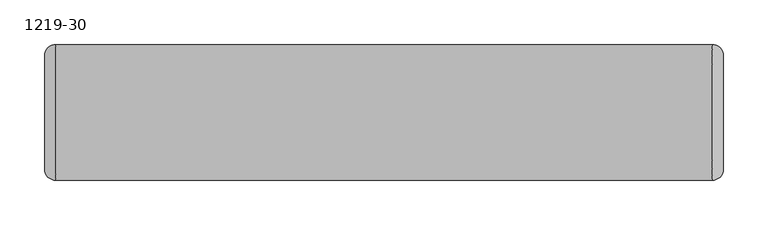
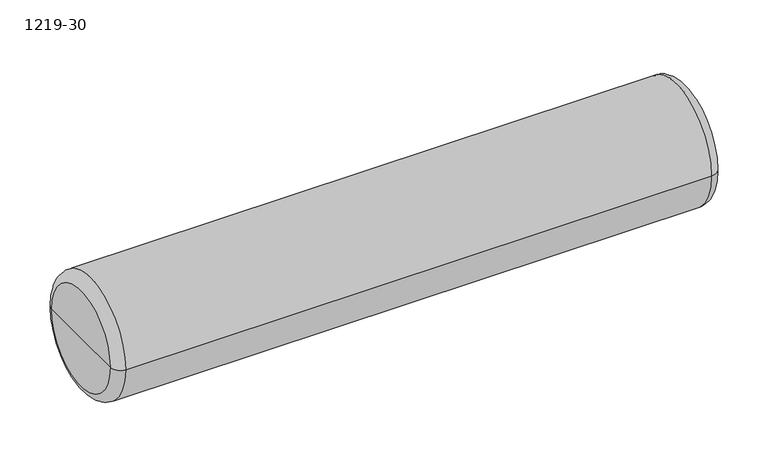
"""IFC4 building model written with IfcOpenShell, lengths in millimetres: furniture geometry, Laguna-Bolster-Pillow-ERG : 1219-30."""

from ifc_helpers import new_model, si_unit, point, frame, origin, place, context, project, spatial, circle_curve, ellipse_curve, trimmed, source, transform, mapped, element, save
from ifc_brep_helpers import plane_surface, cylinder_surface, revolved_surface, advanced_brep


def furniture_1219_30_bc7b73fd(model_context):
    return source(origin(), model_context, "Body", "AdvancedBrep", [
        advanced_brep(
        [(-4662.7421763, 1005.5558502, 508.0), (-4662.7421763, 1069.0558502, 508.0), (-4662.7421763, 942.0558502, 508.0), (-3900.7421763, 942.0558502, 508.0), (-3900.7421763, 1069.0558502, 508.0), (-3900.7421763, 1005.5558502, 508.0), (-3913.4421763, 929.3558502, 508.0), (-3913.4421763, 1081.7558502, 508.0), (-4650.0421763, 929.3558502, 508.0), (-4650.0421763, 1081.7558502, 508.0)],
        [
            (0, 1),
            (1, 2, circle_curve(frame((-4662.7421763, 1005.5558502, 508.0), z_axis=(-1.0, 0.0, 0.0), x_axis=(0.0, 1.0, 0.0)), 63.5)),
            (2, 0),
            (2, 1, circle_curve(frame((-4662.7421763, 1005.5558502, 508.0), z_axis=(-1.0, 0.0, 0.0), x_axis=(0.0, 1.0, 0.0)), 63.5)),
            (3, 4, circle_curve(frame((-3900.7421763, 1005.5558502, 508.0), z_axis=(1.0, 0.0, 0.0), x_axis=(0.0, 1.0, 0.0)), 63.5)),
            (4, 5),
            (5, 3),
            (4, 3, circle_curve(frame((-3900.7421763, 1005.5558502, 508.0), z_axis=(1.0, 0.0, 0.0), x_axis=(0.0, 1.0, 0.0)), 63.5)),
            (6, 7, circle_curve(frame((-3913.4421763, 1005.5558502, 508.0), z_axis=(1.0, 0.0, 0.0), x_axis=(0.0, 1.0, 0.0)), 76.2)),
            (7, 4, circle_curve(frame((-3913.4421763, 1069.0558502, 508.0), z_axis=(0.0, 0.0, -1.0), x_axis=(0.0, 1.0, 0.0)), 12.7)),
            (3, 6, circle_curve(frame((-3913.4421763, 942.0558502, 508.0), z_axis=(0.0, 0.0, -1.0), x_axis=(0.0, -1.0, 0.0)), 12.7)),
            (7, 6, circle_curve(frame((-3913.4421763, 1005.5558502, 508.0), z_axis=(1.0, 0.0, 0.0), x_axis=(0.0, 1.0, 0.0)), 76.2)),
            (8, 9, circle_curve(frame((-4650.0421763, 1005.5558502, 508.0), z_axis=(1.0, 0.0, 0.0), x_axis=(0.0, 1.0, 0.0)), 76.2)),
            (9, 7),
            (6, 8),
            (9, 8, circle_curve(frame((-4650.0421763, 1005.5558502, 508.0), z_axis=(1.0, 0.0, 0.0), x_axis=(0.0, 1.0, 0.0)), 76.2)),
            (1, 9, circle_curve(frame((-4650.0421763, 1069.0558502, 508.0), z_axis=(0.0, 0.0, -1.0), x_axis=(0.0, 1.0, 0.0)), 12.7)),
            (8, 2, circle_curve(frame((-4650.0421763, 942.0558502, 508.0), z_axis=(0.0, 0.0, -1.0), x_axis=(0.0, -1.0, 0.0)), 12.7)),
        ],
        [
            plane_surface(frame((-4662.7421763, 1005.5558502, 508.0), z_axis=(-1.0, 0.0, 0.0), x_axis=(0.0, 1.0, 0.0))),
            plane_surface(frame((-3900.7421763, 1005.5558502, 508.0), z_axis=(1.0, 0.0, 0.0), x_axis=(0.0, 1.0, 0.0))),
            revolved_surface(trimmed(ellipse_curve(frame((-3913.4421763, 1069.0558502, 508.0), z_axis=(0.0, 0.0, 1.0), x_axis=(0.0, 1.0, 0.0)), 12.7, 12.7), [point((-3900.7421763, 1069.0558502, 508.0))], [point((-3913.4421763, 1081.7558502, 508.0))], True, "CARTESIAN"), (-4662.7421763, 1005.5558502, 508.0), (-1.0, 0.0, 0.0)),
            cylinder_surface(frame((-4662.7421763, 1005.5558502, 508.0), z_axis=(-1.0, 0.0, 0.0), x_axis=(0.0, 1.0, 0.0)), 76.2),
            revolved_surface(trimmed(ellipse_curve(frame((-4650.0421763, 1069.0558502, 508.0), z_axis=(0.0, 0.0, 1.0), x_axis=(0.0, 1.0, 0.0)), 12.7, 12.7), [point((-4650.0421763, 1081.7558502, 508.0))], [point((-4662.7421763, 1069.0558502, 508.0))], True, "CARTESIAN"), (-4662.7421763, 1005.5558502, 508.0), (-1.0, 0.0, 0.0)),
        ],
        [
            (0, [[1, 2, 3]]),
            (0, [[-3, 4, -1]]),
            (1, [[5, 6, 7]]),
            (1, [[8, -7, -6]]),
            (2, [[9, 10, -5, 11]]),
            (2, [[12, -11, -8, -10]]),
            (3, [[13, 14, -9, 15]]),
            (3, [[16, -15, -12, -14]]),
            (4, [[-2, 17, -13, 18]]),
            (4, [[-4, -18, -16, -17]]),
        ],
    ),
    ])


if __name__ == "__main__":
    model = new_model("IFC4")
    model_context = context("Model", 3, world=origin())
    ifc_project = project(units=[si_unit("LENGTHUNIT", "METRE", prefix="MILLI")], contexts=[model_context])
    site = spatial("IfcSite", under=ifc_project)
    building = spatial("IfcBuilding", under=site)
    placement = place(None, origin())
    furniture_1219_30_shape = furniture_1219_30_bc7b73fd(model_context)
    element("IfcFurniture", 1, ObjectType="Laguna-Bolster-Pillow-ERG : 1219-30", at=placement, inside=building, context=model_context, shape_type="MappedRepresentation", body=[
        mapped(furniture_1219_30_shape, transform((0.0, 0.0, 0.0), x_axis=(1.0, 0.0, 0.0), y_axis=(0.0, 1.0, 0.0), z_axis=(0.0, 0.0, 1.0))),
    ])
    save(model, "model.ifc")
